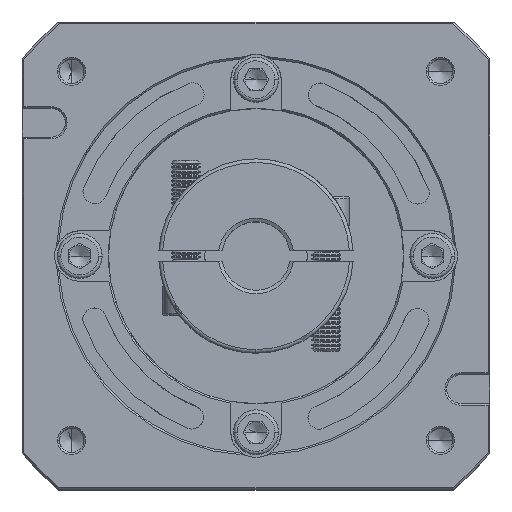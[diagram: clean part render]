
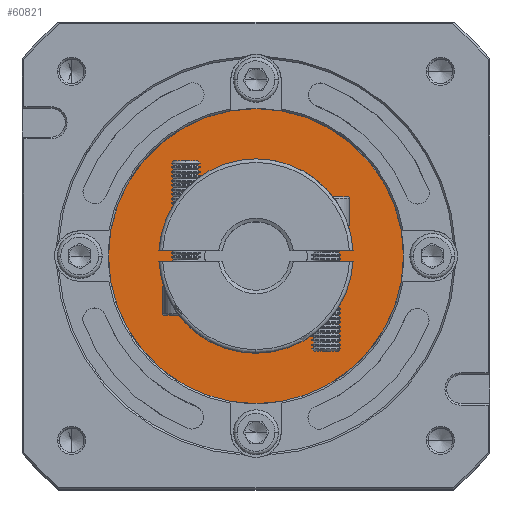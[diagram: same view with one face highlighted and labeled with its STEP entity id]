
A CAD part, top view. The second image highlights one B-rep face of the part: STEP entity #60821.
In plain terms, the highlighted planar face has unit normal (0, 0, 1).
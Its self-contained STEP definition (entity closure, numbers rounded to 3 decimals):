
#589 = EDGE_CURVE ( 'NONE', #43897, #61933, #38873, .T. ) ;
#2562 = EDGE_CURVE ( 'NONE', #115457, #89324, #116925, .T. ) ;
#3009 = DIRECTION ( 'NONE',  ( 0., 0., 1. ) ) ;
#6794 = AXIS2_PLACEMENT_3D ( 'NONE', #53978, #72354, #17455 ) ;
#9304 = ORIENTED_EDGE ( 'NONE', *, *, #10846, .T. ) ;
#10522 = EDGE_LOOP ( 'NONE', ( #109991, #9304 ) ) ;
#10846 = EDGE_CURVE ( 'NONE', #89324, #115457, #117006, .T. ) ;
#11640 = EDGE_CURVE ( 'NONE', #61933, #43897, #71007, .T. ) ;
#17455 = DIRECTION ( 'NONE',  ( 1., 0., 0. ) ) ;
#21864 = DIRECTION ( 'NONE',  ( 1., 0., 0. ) ) ;
#22709 = CARTESIAN_POINT ( 'NONE',  ( 32.051, 102.547, -40.936 ) ) ;
#25479 = DIRECTION ( 'NONE',  ( 0., 0., -1. ) ) ;
#30048 = DIRECTION ( 'NONE',  ( 0., 0., 1. ) ) ;
#32472 = DIRECTION ( 'NONE',  ( 0., 0., 1. ) ) ;
#33315 = CARTESIAN_POINT ( 'NONE',  ( 53.051, 102.547, -40.936 ) ) ;
#38873 = CIRCLE ( 'NONE', #52363, 20. ) ;
#41022 = AXIS2_PLACEMENT_3D ( 'NONE', #74944, #30048, #94087 ) ;
#43897 = VERTEX_POINT ( 'NONE', #33315 ) ;
#49980 = PLANE ( 'NONE',  #105706 ) ;
#51723 = ORIENTED_EDGE ( 'NONE', *, *, #589, .T. ) ;
#52363 = AXIS2_PLACEMENT_3D ( 'NONE', #88695, #25479, #97921 ) ;
#53903 = FACE_BOUND ( 'NONE', #104051, .T. ) ;
#53978 = CARTESIAN_POINT ( 'NONE',  ( 73.051, 102.547, -40.936 ) ) ;
#58016 = CARTESIAN_POINT ( 'NONE',  ( 73.051, 102.547, -40.936 ) ) ;
#60821 = ADVANCED_FACE ( 'NONE', ( #79529, #53903 ), #49980, .T. ) ;
#61933 = VERTEX_POINT ( 'NONE', #68498 ) ;
#68498 = CARTESIAN_POINT ( 'NONE',  ( 93.051, 102.547, -40.936 ) ) ;
#71007 = CIRCLE ( 'NONE', #6794, 20. ) ;
#72354 = DIRECTION ( 'NONE',  ( 0., 0., -1. ) ) ;
#74944 = CARTESIAN_POINT ( 'NONE',  ( 73.051, 102.547, -40.936 ) ) ;
#79529 = FACE_OUTER_BOUND ( 'NONE', #10522, .T. ) ;
#81186 = AXIS2_PLACEMENT_3D ( 'NONE', #96881, #32472, #104859 ) ;
#88695 = CARTESIAN_POINT ( 'NONE',  ( 73.051, 102.547, -40.936 ) ) ;
#89324 = VERTEX_POINT ( 'NONE', #22709 ) ;
#94087 = DIRECTION ( 'NONE',  ( 1., 0., 0. ) ) ;
#96881 = CARTESIAN_POINT ( 'NONE',  ( 73.051, 102.547, -40.936 ) ) ;
#97921 = DIRECTION ( 'NONE',  ( 1., 0., 0. ) ) ;
#100604 = ORIENTED_EDGE ( 'NONE', *, *, #11640, .T. ) ;
#104051 = EDGE_LOOP ( 'NONE', ( #100604, #51723 ) ) ;
#104859 = DIRECTION ( 'NONE',  ( 1., 0., 0. ) ) ;
#105706 = AXIS2_PLACEMENT_3D ( 'NONE', #58016, #3009, #21864 ) ;
#108375 = CARTESIAN_POINT ( 'NONE',  ( 114.051, 102.547, -40.936 ) ) ;
#109991 = ORIENTED_EDGE ( 'NONE', *, *, #2562, .T. ) ;
#115457 = VERTEX_POINT ( 'NONE', #108375 ) ;
#116925 = CIRCLE ( 'NONE', #41022, 41. ) ;
#117006 = CIRCLE ( 'NONE', #81186, 41. ) ;
